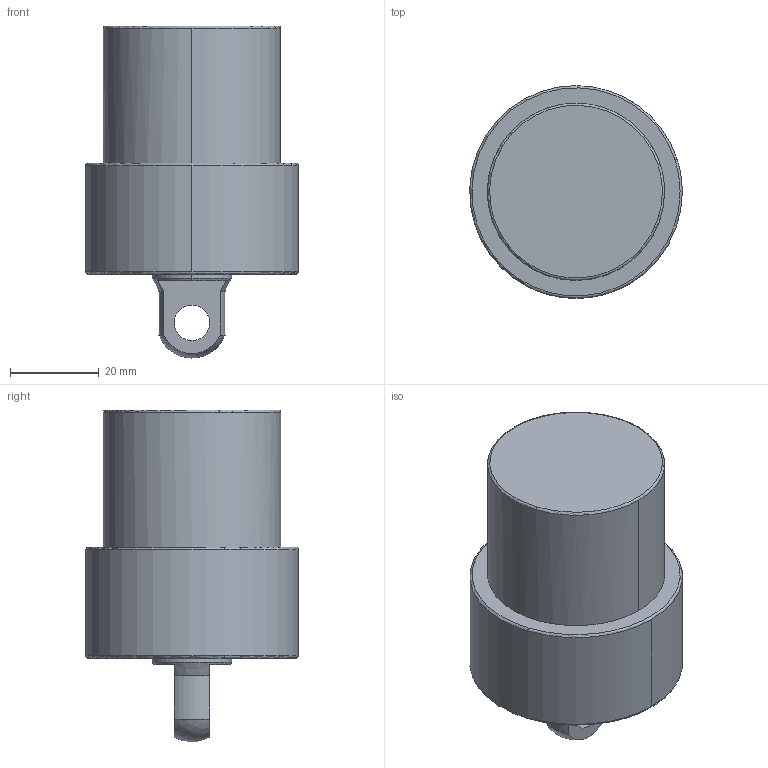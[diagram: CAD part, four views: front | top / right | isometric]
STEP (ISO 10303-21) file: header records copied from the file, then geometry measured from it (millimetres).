
FILE_DESCRIPTION((' '),'2;1');
FILE_NAME( 'TLLU-040GP-020.STEP.stp', '2025-10-24T16:37:15', (' '), ('--- Datakit www.datakit.com---'), ' Datakit CrossCadWare V2024.1 Dec 21 2023', 'Mastercam 2025', ' ');
FILE_SCHEMA(('AUTOMOTIVE_DESIGN { 1 0 10303 214 1 1 1 1 }'));
Length unit declared in the file: millimetre
Products named in the file (1): TLLU-040GP-020
Bounding box: 47.99 x 48 x 74.96 mm (x, y, z)
Volume: 85024.9 mm3; surface area: 12802.6 mm2
Topology: 1 solids, 1 shells, 56 faces, 167 edges, 113 vertices
Faces by surface type: cylinder 22, cone 18, plane 9, torus 6, sphere 1
Entity records: 1952 total; most frequent: DIRECTION 380, CARTESIAN_POINT 341, ORIENTED_EDGE 318, AXIS2_PLACEMENT_3D 168, EDGE_CURVE 159, VERTEX_POINT 113, CIRCLE 111, EDGE_LOOP 66
